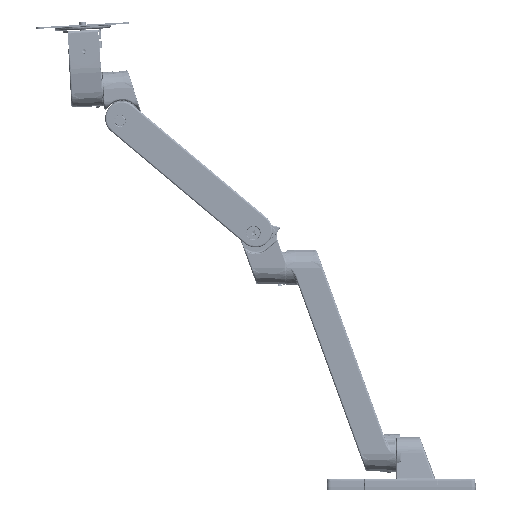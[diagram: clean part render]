
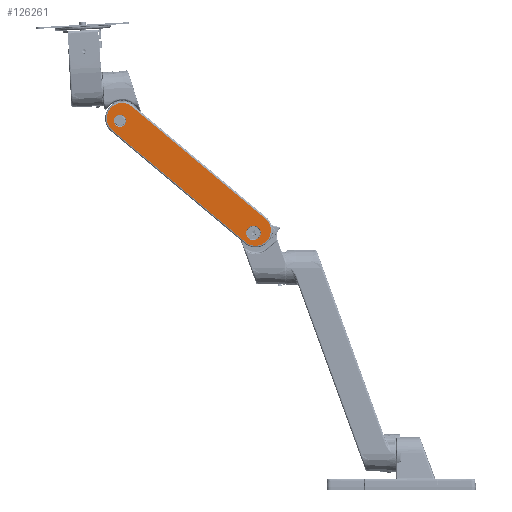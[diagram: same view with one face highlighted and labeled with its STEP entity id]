
A CAD part, left-side view. The second image highlights one B-rep face of the part: STEP entity #126261.
In plain terms, the highlighted planar face has unit normal (-1, 0.011, -0.013) as drawn and (-1, 0.017, 0) by its records, which use the part's own axes.
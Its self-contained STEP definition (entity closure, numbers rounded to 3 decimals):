
#1549 = AXIS2_PLACEMENT_3D ( 'NONE', #170438, #25327, #3832 ) ;
#3832 = DIRECTION ( 'NONE',  ( 0.017, 1., 0. ) ) ;
#5714 = EDGE_CURVE ( 'NONE', #141801, #248426, #20984, .T. ) ;
#7172 = VERTEX_POINT ( 'NONE', #58004 ) ;
#8680 = CARTESIAN_POINT ( 'NONE',  ( -21.428, -7.524, 230.961 ) ) ;
#11681 = ORIENTED_EDGE ( 'NONE', *, *, #5714, .F. ) ;
#15181 = CARTESIAN_POINT ( 'NONE',  ( -21.165, 7.537, 215.9 ) ) ;
#17854 = CARTESIAN_POINT ( 'NONE',  ( -21.428, -7.524, 200.839 ) ) ;
#20984 =( BOUNDED_CURVE ( )  B_SPLINE_CURVE ( 3, ( #152451, #8680, #192783, #188853 ),
 .UNSPECIFIED., .F., .F. ) 
 B_SPLINE_CURVE_WITH_KNOTS ( ( 4, 4 ),
 ( 0., 3.142 ),
 .UNSPECIFIED. ) 
 CURVE ( )  GEOMETRIC_REPRESENTATION_ITEM ( )  RATIONAL_B_SPLINE_CURVE ( ( 1., 0.333, 0.333, 1. ) ) 
 REPRESENTATION_ITEM ( '' )  );
#22934 = CARTESIAN_POINT ( 'NONE',  ( -21.428, -7.524, 215.9 ) ) ;
#23973 = FACE_BOUND ( 'NONE', #95841, .T. ) ;
#25327 = DIRECTION ( 'NONE',  ( -1., 0.017, 0. ) ) ;
#25394 = CARTESIAN_POINT ( 'NONE',  ( -21.454, -9.033, 0. ) ) ;
#26430 =( BOUNDED_CURVE ( )  B_SPLINE_CURVE ( 3, ( #177470, #99496, #73970, #120988 ),
 .UNSPECIFIED., .F., .F. ) 
 B_SPLINE_CURVE_WITH_KNOTS ( ( 4, 4 ),
 ( 3.142, 6.283 ),
 .UNSPECIFIED. ) 
 CURVE ( )  GEOMETRIC_REPRESENTATION_ITEM ( )  RATIONAL_B_SPLINE_CURVE ( ( 1., 0.333, 0.333, 1. ) ) 
 REPRESENTATION_ITEM ( '' )  );
#32097 = CARTESIAN_POINT ( 'NONE',  ( -21.034, 15.035, 0. ) ) ;
#34505 = CARTESIAN_POINT ( 'NONE',  ( -21.165, 7.537, 215.9 ) ) ;
#45506 = CARTESIAN_POINT ( 'NONE',  ( -21.139, 9.04, 0. ) ) ;
#50254 = VECTOR ( 'NONE', #90559, 1000. ) ;
#55773 = CARTESIAN_POINT ( 'NONE',  ( -21.034, 15.035, 215.9 ) ) ;
#58004 = CARTESIAN_POINT ( 'NONE',  ( -21.698, -22.965, 0. ) ) ;
#60214 =( BOUNDED_CURVE ( )  B_SPLINE_CURVE ( 3, ( #224086, #81606, #207832, #104403 ),
 .UNSPECIFIED., .F., .F. ) 
 B_SPLINE_CURVE_WITH_KNOTS ( ( 4, 4 ),
 ( 0., 3.142 ),
 .UNSPECIFIED. ) 
 CURVE ( )  GEOMETRIC_REPRESENTATION_ITEM ( )  RATIONAL_B_SPLINE_CURVE ( ( 1., 0.333, 0.333, 1. ) ) 
 REPRESENTATION_ITEM ( '' )  );
#63843 = ORIENTED_EDGE ( 'NONE', *, *, #136158, .F. ) ;
#65388 = CARTESIAN_POINT ( 'NONE',  ( -21.034, 15.035, 215.9 ) ) ;
#67908 = EDGE_CURVE ( 'NONE', #237798, #202464, #172527, .T. ) ;
#72324 = ORIENTED_EDGE ( 'NONE', *, *, #87960, .F. ) ;
#73970 = CARTESIAN_POINT ( 'NONE',  ( -21.034, 15.035, -38. ) ) ;
#81606 = CARTESIAN_POINT ( 'NONE',  ( -21.454, -9.033, 18.073 ) ) ;
#87960 = EDGE_CURVE ( 'NONE', #241259, #232702, #60214, .T. ) ;
#88428 = FACE_BOUND ( 'NONE', #194213, .T. ) ;
#89411 = DIRECTION ( 'NONE',  ( 0., 0., -1. ) ) ;
#90249 =( BOUNDED_CURVE ( )  B_SPLINE_CURVE ( 3, ( #65388, #225389, #246853, #142117 ),
 .UNSPECIFIED., .F., .F. ) 
 B_SPLINE_CURVE_WITH_KNOTS ( ( 4, 4 ),
 ( 0., 3.142 ),
 .UNSPECIFIED. ) 
 CURVE ( )  GEOMETRIC_REPRESENTATION_ITEM ( )  RATIONAL_B_SPLINE_CURVE ( ( 1., 0.333, 0.333, 1. ) ) 
 REPRESENTATION_ITEM ( '' )  );
#90559 = DIRECTION ( 'NONE',  ( 0., 0., 1. ) ) ;
#95841 = EDGE_LOOP ( 'NONE', ( #11681, #63843 ) ) ;
#96039 = ORIENTED_EDGE ( 'NONE', *, *, #215782, .F. ) ;
#99496 = CARTESIAN_POINT ( 'NONE',  ( -21.698, -22.965, -38. ) ) ;
#104403 = CARTESIAN_POINT ( 'NONE',  ( -21.139, 9.04, 0. ) ) ;
#105995 = FACE_OUTER_BOUND ( 'NONE', #162584, .T. ) ;
#118320 = ORIENTED_EDGE ( 'NONE', *, *, #180358, .F. ) ;
#120037 = CARTESIAN_POINT ( 'NONE',  ( -21.428, -7.524, 215.9 ) ) ;
#120988 = CARTESIAN_POINT ( 'NONE',  ( -21.034, 15.035, 0. ) ) ;
#126261 = ADVANCED_FACE ( 'NONE', ( #88428, #23973, #105995 ), #146317, .T. ) ;
#128443 = LINE ( 'NONE', #207725, #199452 ) ;
#136158 = EDGE_CURVE ( 'NONE', #248426, #141801, #166872, .T. ) ;
#137628 = ORIENTED_EDGE ( 'NONE', *, *, #226314, .F. ) ;
#141264 = CARTESIAN_POINT ( 'NONE',  ( -21.139, 9.04, 0. ) ) ;
#141801 = VERTEX_POINT ( 'NONE', #22934 ) ;
#142117 = CARTESIAN_POINT ( 'NONE',  ( -21.698, -22.965, 215.9 ) ) ;
#142610 = CARTESIAN_POINT ( 'NONE',  ( -21.698, -22.965, 215.9 ) ) ;
#146317 = PLANE ( 'NONE',  #1549 ) ;
#149161 =( BOUNDED_CURVE ( )  B_SPLINE_CURVE ( 3, ( #45506, #167885, #209478, #25394 ),
 .UNSPECIFIED., .F., .T. ) 
 B_SPLINE_CURVE_WITH_KNOTS ( ( 4, 4 ),
 ( 3.142, 6.283 ),
 .UNSPECIFIED. ) 
 CURVE ( )  GEOMETRIC_REPRESENTATION_ITEM ( )  RATIONAL_B_SPLINE_CURVE ( ( 1., 0.333, 0.333, 1. ) ) 
 REPRESENTATION_ITEM ( '' )  );
#152451 = CARTESIAN_POINT ( 'NONE',  ( -21.428, -7.524, 215.9 ) ) ;
#159005 = CARTESIAN_POINT ( 'NONE',  ( -21.165, 7.537, 200.839 ) ) ;
#162584 = EDGE_LOOP ( 'NONE', ( #118320, #137628, #197160, #240690 ) ) ;
#165655 = VERTEX_POINT ( 'NONE', #142610 ) ;
#166872 =( BOUNDED_CURVE ( )  B_SPLINE_CURVE ( 3, ( #15181, #159005, #17854, #120037 ),
 .UNSPECIFIED., .F., .F. ) 
 B_SPLINE_CURVE_WITH_KNOTS ( ( 4, 4 ),
 ( 3.142, 6.283 ),
 .UNSPECIFIED. ) 
 CURVE ( )  GEOMETRIC_REPRESENTATION_ITEM ( )  RATIONAL_B_SPLINE_CURVE ( ( 1., 0.333, 0.333, 1. ) ) 
 REPRESENTATION_ITEM ( '' )  );
#167885 = CARTESIAN_POINT ( 'NONE',  ( -21.139, 9.04, -18.073 ) ) ;
#169905 = CARTESIAN_POINT ( 'NONE',  ( -21.034, 15.035, 215.9 ) ) ;
#170438 = CARTESIAN_POINT ( 'NONE',  ( -21., 17., 0. ) ) ;
#172527 = LINE ( 'NONE', #169905, #50254 ) ;
#177470 = CARTESIAN_POINT ( 'NONE',  ( -21.698, -22.965, 0. ) ) ;
#180358 = EDGE_CURVE ( 'NONE', #165655, #7172, #128443, .T. ) ;
#188853 = CARTESIAN_POINT ( 'NONE',  ( -21.165, 7.537, 215.9 ) ) ;
#192783 = CARTESIAN_POINT ( 'NONE',  ( -21.165, 7.537, 230.961 ) ) ;
#194213 = EDGE_LOOP ( 'NONE', ( #72324, #96039 ) ) ;
#197160 = ORIENTED_EDGE ( 'NONE', *, *, #67908, .F. ) ;
#199452 = VECTOR ( 'NONE', #89411, 1000. ) ;
#202464 = VERTEX_POINT ( 'NONE', #55773 ) ;
#207725 = CARTESIAN_POINT ( 'NONE',  ( -21.698, -22.965, 0. ) ) ;
#207832 = CARTESIAN_POINT ( 'NONE',  ( -21.139, 9.04, 18.073 ) ) ;
#209478 = CARTESIAN_POINT ( 'NONE',  ( -21.454, -9.033, -18.073 ) ) ;
#215782 = EDGE_CURVE ( 'NONE', #232702, #241259, #149161, .T. ) ;
#224086 = CARTESIAN_POINT ( 'NONE',  ( -21.454, -9.033, 0. ) ) ;
#225389 = CARTESIAN_POINT ( 'NONE',  ( -21.034, 15.035, 253.9 ) ) ;
#226314 = EDGE_CURVE ( 'NONE', #202464, #165655, #90249, .T. ) ;
#232702 = VERTEX_POINT ( 'NONE', #141264 ) ;
#237798 = VERTEX_POINT ( 'NONE', #32097 ) ;
#238199 = CARTESIAN_POINT ( 'NONE',  ( -21.454, -9.033, 0. ) ) ;
#240690 = ORIENTED_EDGE ( 'NONE', *, *, #251574, .F. ) ;
#241259 = VERTEX_POINT ( 'NONE', #238199 ) ;
#246853 = CARTESIAN_POINT ( 'NONE',  ( -21.698, -22.965, 253.9 ) ) ;
#248426 = VERTEX_POINT ( 'NONE', #34505 ) ;
#251574 = EDGE_CURVE ( 'NONE', #7172, #237798, #26430, .T. ) ;
